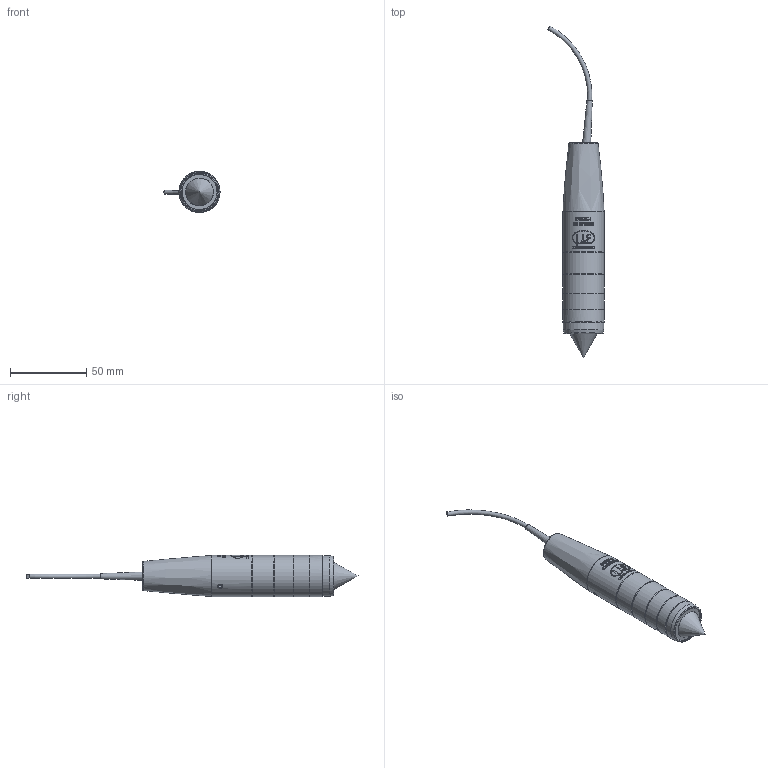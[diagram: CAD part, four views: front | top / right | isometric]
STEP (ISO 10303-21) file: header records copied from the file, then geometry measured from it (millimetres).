
FILE_DESCRIPTION (( 'STEP AP214' ), '1' );
FILE_NAME ('IFS2404-1.STEP', '2023-04-26T11:28:22', ( '' ), ( '' ), 'SwSTEP 2.0', 'SolidWorks 2020', '' );
FILE_SCHEMA (( 'AUTOMOTIVE_DESIGN' ));
Length unit declared in the file: millimetre
Products named in the file (4): Kopie von Teil12^105053_000; 101192_000; IFS2404-1; 105050_000
Assembly tree (3 placements, depth 2):
  IFS2404-1
    105050_000
    Kopie von Teil12^105053_000
    101192_000
Bounding box: 36.86 x 217.8 x 27 mm (x, y, z)
Volume: 59512.9 mm3; surface area: 18729.2 mm2
Topology: 3 solids, 4 shells, 180 faces, 746 edges, 638 vertices
Faces by surface type: cylinder 85, plane 64, cone 15, torus 11, bspline 5
Full cylindrical faces by diameter (mm): 0.05 x1, 2 x2, 2.5 x2, 2.9 x2, 3.8 x2, 7 x1, 9.2 x1, 10 x1, 14 x1, 19 x1, 20 x1, 21 x1, 22.4 x1, 23 x2, 23.5 x1, 24 x1, 24.1 x1, 26.9 x1, 27 x5
Entity records: 14005 total; most frequent: CARTESIAN_POINT 6352, ORIENTED_EDGE 1328, DIRECTION 913, EDGE_CURVE 664, VERTEX_POINT 614, AXIS2_PLACEMENT_3D 373, EDGE_LOOP 308, B_SPLINE_CURVE_WITH_KNOTS 301
